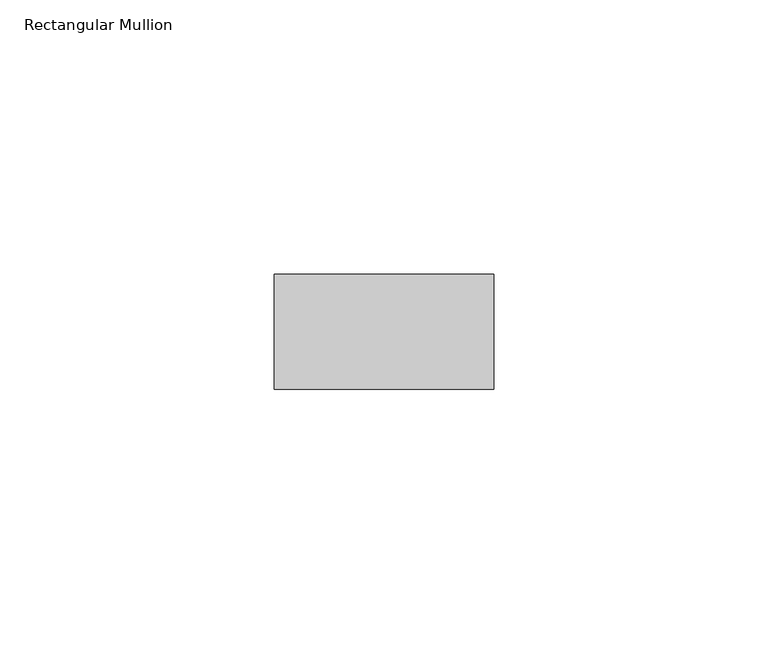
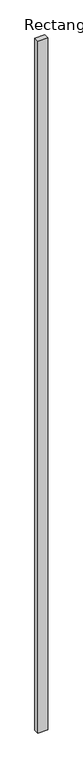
"""IFC4 building model written with IfcOpenShell, lengths in millimetres: member geometry, Rectangular Mullion : RSen_21_CWM_support profile - 40x21 - left_gen_duco projects."""

from ifc_helpers import new_model, si_unit, frame, origin, place, context, project, spatial, polyline, outline, extrude, source, transform, mapped, element, save


def rectangular_mullion_38ebcafd(model_context):
    return source(origin(), model_context, "Body", "SweptSolid", [
        extrude(outline(polyline([(-50.0, 0.0), (-50.0, -21.0), (-90.0, -21.0), (-90.0, 0.0), (-50.0, 0.0)])), frame((0.0, 0.0, -3000.0), z_axis=(0.0, 0.0, 1.0), x_axis=(1.0, 0.0, 0.0)), (0.0, 0.0, 1.0), 3000.0),
    ])


if __name__ == "__main__":
    model = new_model("IFC4")
    model_context = context("Model", 3, world=origin())
    ifc_project = project(units=[si_unit("LENGTHUNIT", "METRE", prefix="MILLI")], contexts=[model_context])
    site = spatial("IfcSite", under=ifc_project)
    building = spatial("IfcBuilding", under=site)
    placement = place(None, origin())
    rectangular_mullion_shape = rectangular_mullion_38ebcafd(model_context)
    element("IfcMember", 1, ObjectType="Rectangular Mullion : RSen_21_CWM_support profile - 40x21 - left_gen_duco projects", at=placement, inside=building, context=model_context, shape_type="MappedRepresentation", body=[
        mapped(rectangular_mullion_shape, transform((0.0, 0.0, 0.0), x_axis=(1.0, 0.0, 0.0), y_axis=(0.0, 1.0, 0.0), z_axis=(0.0, 0.0, 1.0))),
    ])
    save(model, "model.ifc")
